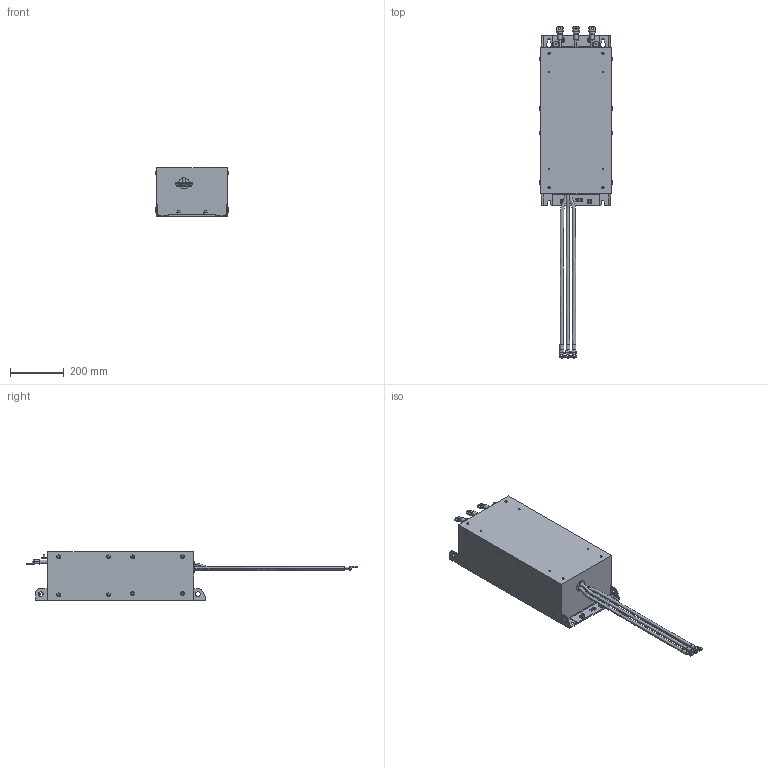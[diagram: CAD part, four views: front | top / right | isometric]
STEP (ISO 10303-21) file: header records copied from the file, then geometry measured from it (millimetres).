
FILE_DESCRIPTION (( 'STEP AP214' ), '1' );
FILE_NAME ('00E6X05-0024.STEP', '2023-07-11T14:13:40', ( '' ), ( '' ), 'SwSTEP 2.0', 'SolidWorks 2022', '' );
FILE_SCHEMA (( 'AUTOMOTIVE_DESIGN' ));
Length unit declared in the file: millimetre
Products named in the file (1): 00E6X05-0024
Bounding box: 269.4 x 1232.53 x 180 mm (x, y, z)
Volume: 26004217.1 mm3; surface area: 720412.8 mm2
Topology: 1 solids, 1 shells, 481 faces, 1177 edges, 758 vertices
Faces by surface type: plane 201, cylinder 181, bspline 67, torus 32
Entity records: 21917 total; most frequent: CARTESIAN_POINT 10631, ORIENTED_EDGE 2354, DIRECTION 2143, EDGE_CURVE 1177, AXIS2_PLACEMENT_3D 809, VERTEX_POINT 758, EDGE_LOOP 565, VECTOR 525
